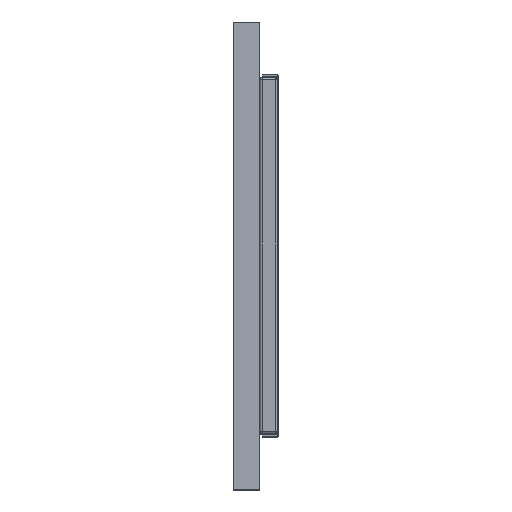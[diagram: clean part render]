
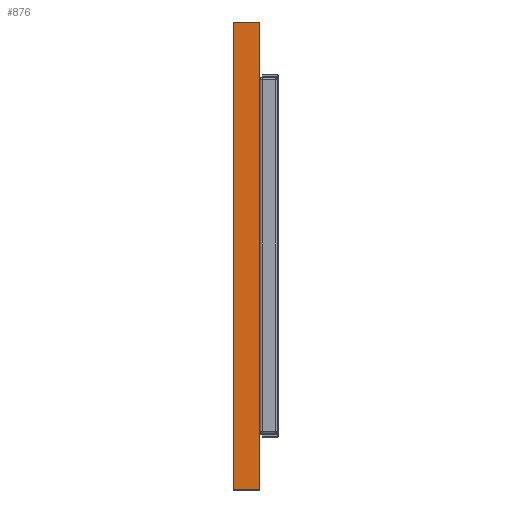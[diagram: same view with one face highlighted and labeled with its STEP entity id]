
A CAD part, top view. The second image highlights one B-rep face of the part: STEP entity #876.
In plain terms, the highlighted planar face has unit normal (0, 0, 1).
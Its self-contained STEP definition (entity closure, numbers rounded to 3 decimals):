
#95 = VERTEX_POINT ( 'NONE', #2389 ) ;
#450 = VERTEX_POINT ( 'NONE', #2553 ) ;
#459 = DIRECTION ( 'NONE',  ( -1., 0., 0. ) ) ;
#467 = PLANE ( 'NONE',  #621 ) ;
#621 = AXIS2_PLACEMENT_3D ( 'NONE', #2758, #2151, #459 ) ;
#624 = FACE_OUTER_BOUND ( 'NONE', #1003, .T. ) ;
#859 = ORIENTED_EDGE ( 'NONE', *, *, #2159, .T. ) ;
#876 = ADVANCED_FACE ( 'NONE', ( #624 ), #467, .F. ) ;
#1003 = EDGE_LOOP ( 'NONE', ( #859, #1294, #1629, #1092 ) ) ;
#1092 = ORIENTED_EDGE ( 'NONE', *, *, #2491, .T. ) ;
#1113 = VECTOR ( 'NONE', #2924, 1000. ) ;
#1150 = LINE ( 'NONE', #2917, #1113 ) ;
#1294 = ORIENTED_EDGE ( 'NONE', *, *, #2988, .T. ) ;
#1411 = EDGE_CURVE ( 'NONE', #2569, #95, #1480, .T. ) ;
#1419 = VECTOR ( 'NONE', #1469, 1000. ) ;
#1459 = CARTESIAN_POINT ( 'NONE',  ( 0., 105., 128. ) ) ;
#1469 = DIRECTION ( 'NONE',  ( 1., 0., 0. ) ) ;
#1480 = LINE ( 'NONE', #2743, #1563 ) ;
#1488 = LINE ( 'NONE', #2432, #1419 ) ;
#1563 = VECTOR ( 'NONE', #2815, 1000. ) ;
#1629 = ORIENTED_EDGE ( 'NONE', *, *, #1411, .T. ) ;
#1997 = VERTEX_POINT ( 'NONE', #1459 ) ;
#2019 = CARTESIAN_POINT ( 'NONE',  ( 0., 0., 128. ) ) ;
#2024 = DIRECTION ( 'NONE',  ( 0., -1., 0. ) ) ;
#2151 = DIRECTION ( 'NONE',  ( 0., 0., -1. ) ) ;
#2159 = EDGE_CURVE ( 'NONE', #1997, #450, #2339, .T. ) ;
#2309 = VECTOR ( 'NONE', #2024, 1000. ) ;
#2339 = LINE ( 'NONE', #2019, #2309 ) ;
#2389 = CARTESIAN_POINT ( 'NONE',  ( 6., 105., 128. ) ) ;
#2432 = CARTESIAN_POINT ( 'NONE',  ( 0., 0., 128. ) ) ;
#2491 = EDGE_CURVE ( 'NONE', #95, #1997, #1150, .T. ) ;
#2553 = CARTESIAN_POINT ( 'NONE',  ( 0., 0., 128. ) ) ;
#2569 = VERTEX_POINT ( 'NONE', #3056 ) ;
#2743 = CARTESIAN_POINT ( 'NONE',  ( 6., 0., 128. ) ) ;
#2758 = CARTESIAN_POINT ( 'NONE',  ( 0., 0., 128. ) ) ;
#2815 = DIRECTION ( 'NONE',  ( 0., 1., 0. ) ) ;
#2917 = CARTESIAN_POINT ( 'NONE',  ( 0., 105., 128. ) ) ;
#2924 = DIRECTION ( 'NONE',  ( -1., 0., 0. ) ) ;
#2988 = EDGE_CURVE ( 'NONE', #450, #2569, #1488, .T. ) ;
#3056 = CARTESIAN_POINT ( 'NONE',  ( 6., 0., 128. ) ) ;
